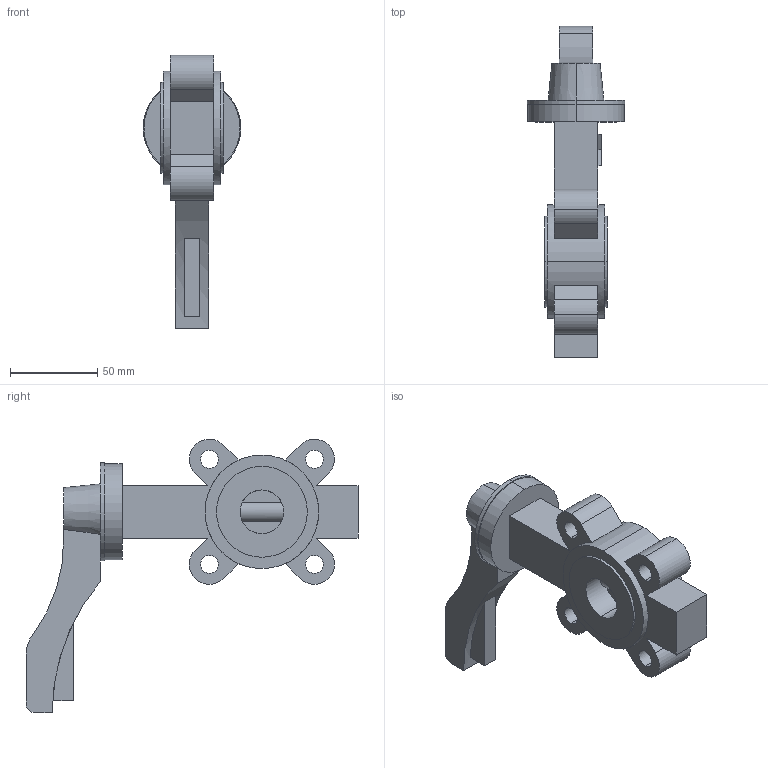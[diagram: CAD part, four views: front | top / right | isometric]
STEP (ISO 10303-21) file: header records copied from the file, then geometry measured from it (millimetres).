
FILE_DESCRIPTION (( 'STEP AP214' ), '1' );
FILE_NAME ('E124_025.STEP', '2021-05-27T15:59:51', ( '' ), ( '' ), 'SwSTEP 2.0', 'SolidWorks 2020', '' );
FILE_SCHEMA (( 'AUTOMOTIVE_DESIGN' ));
Length unit declared in the file: millimetre
Products named in the file (1): E124_025
Bounding box: 56 x 190 x 156.55 mm (x, y, z)
Volume: 278327.6 mm3; surface area: 49777.3 mm2
Topology: 1 solids, 1 shells, 89 faces, 229 edges, 152 vertices
Faces by surface type: plane 53, cylinder 34, cone 2
Entity records: 3798 total; most frequent: CARTESIAN_POINT 591, DIRECTION 483, ORIENTED_EDGE 458, EDGE_CURVE 229, AXIS2_PLACEMENT_3D 170, VERTEX_POINT 152, VECTOR 143, LINE 143
